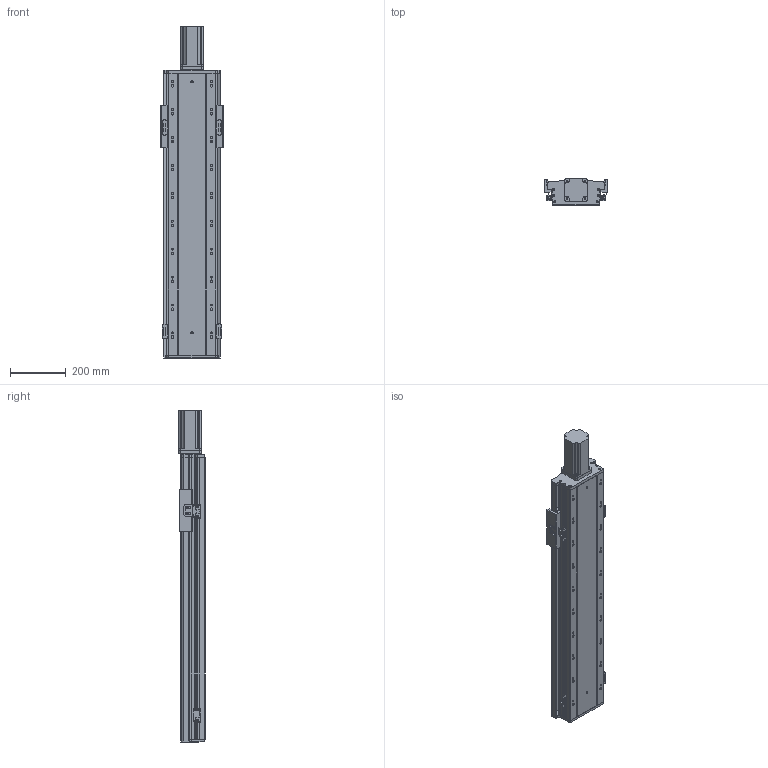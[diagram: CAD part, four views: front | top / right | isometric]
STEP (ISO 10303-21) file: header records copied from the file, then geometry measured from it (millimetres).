
FILE_DESCRIPTION (( 'STEP AP203' ), '1' );
FILE_NAME ('RY170FB-L2510-300-MK.SLDASM_700.step', '2021-02-22T08:56:42', ( '盈信电脑' ), ( '东莞市道滘镇水果街19号' ), 'SwSTEP 2.0', 'SolidWorks 2012', '' );
FILE_SCHEMA (( 'CONFIG_CONTROL_DESIGN' ));
Length unit declared in the file: millimetre
Products named in the file (16): RY170FB-L2510-300-MK.SLDASM_700; RY140-674嫖萇耀輸; RY140FB-674嫖萇覜茼え; RY140FB-覜茼え; 侂狟750W萇儂ㄗ80遺ㄘ; 覜茼ん674; 750W萇儂梓袧蛌諉啣; RY140直线电机感应器674光电安装座; 滅袉蝶18-10; RY170FB-铝滑块(25丝杆）; RY170FB-300奻裔_700; RY170FB-ヶ裔啣; RY170FB-300倰第菁釱-MK_700; RY170FB-綴裔啣; 滅袉蝶18-28
Assembly tree (20 placements, depth 3):
  RY170FB-L2510-300-MK.SLDASM_700
    RY170FB-300倰第菁釱-MK_700
    RY170FB-綴裔啣
    RY170FB-ヶ裔啣
    滅袉蝶18-28
    滅袉蝶18-10
    RY170FB-铝滑块(25丝杆）
    RY170FB-300奻裔_700
    750W萇儂梓袧蛌諉啣
    侂狟750W萇儂ㄗ80遺ㄘ
    RY140-674嫖萇耀輸  x2
      覜茼ん674
      RY140直线电机感应器674光电安装座
    RY140FB-674嫖萇覜茼え
    RY140-674嫖萇耀輸  x2
      覜茼ん674
      RY140直线电机感应器674光电安装座
    RY140FB-覜茼え
Bounding box: 225 x 93.2 x 1189.5 mm (x, y, z)
Volume: 6487221.6 mm3; surface area: 1818403.7 mm2
Topology: 21 solids, 21 shells, 1663 faces, 4797 edges, 3084 vertices
Faces by surface type: cylinder 786, plane 761, cone 116
Entity records: 43453 total; most frequent: CARTESIAN_POINT 9578, ORIENTED_EDGE 6814, DIRECTION 6685, EDGE_CURVE 3407, AXIS2_PLACEMENT_3D 2435, VERTEX_POINT 2238, LINE 1815, VECTOR 1815
